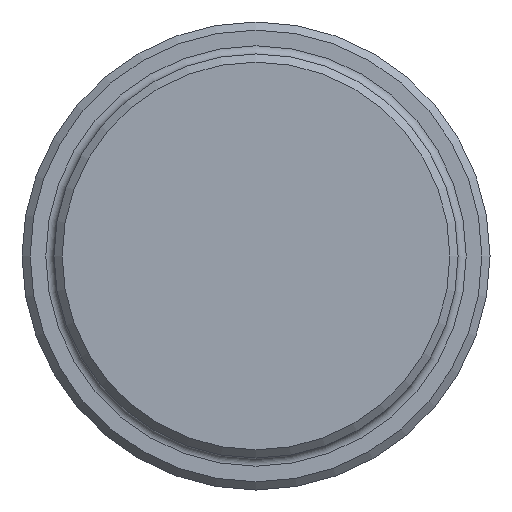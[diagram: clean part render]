
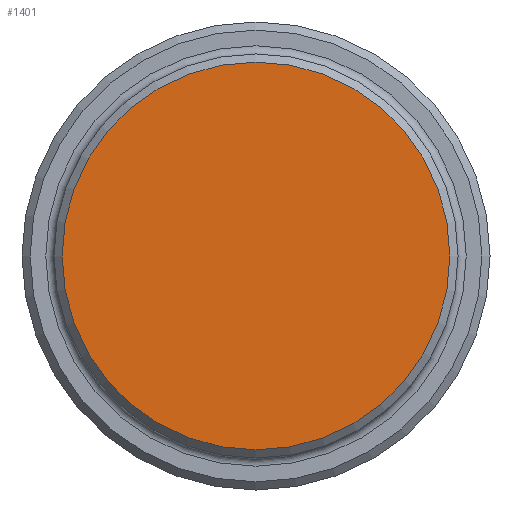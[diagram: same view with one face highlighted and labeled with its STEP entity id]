
A CAD part, left-side view. The second image highlights one B-rep face of the part: STEP entity #1401.
In plain terms, the highlighted planar face has unit normal (-1, 0, 0).
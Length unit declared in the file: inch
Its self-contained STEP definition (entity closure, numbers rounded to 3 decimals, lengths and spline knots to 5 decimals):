
#34 = CARTESIAN_POINT ( 'NONE',  ( 0., 0., 0. ) ) ;
#130 = AXIS2_PLACEMENT_3D ( 'NONE', #34, #466, #1208 ) ;
#274 = VERTEX_POINT ( 'NONE', #1244 ) ;
#332 = EDGE_LOOP ( 'NONE', ( #1124 ) ) ;
#466 = DIRECTION ( 'NONE',  ( 1., 0., 0. ) ) ;
#663 = DIRECTION ( 'NONE',  ( 0., 0., -1. ) ) ;
#732 = AXIS2_PLACEMENT_3D ( 'NONE', #1718, #1234, #663 ) ;
#773 = EDGE_CURVE ( 'NONE', #274, #274, #1070, .T. ) ;
#831 = PLANE ( 'NONE',  #130 ) ;
#1070 = CIRCLE ( 'NONE', #732, 1.425 ) ;
#1124 = ORIENTED_EDGE ( 'NONE', *, *, #773, .T. ) ;
#1148 = FACE_OUTER_BOUND ( 'NONE', #332, .T. ) ;
#1208 = DIRECTION ( 'NONE',  ( 0., 0., -1. ) ) ;
#1234 = DIRECTION ( 'NONE',  ( -1., 0., 0. ) ) ;
#1244 = CARTESIAN_POINT ( 'NONE',  ( 0., 0., -1.425 ) ) ;
#1401 = ADVANCED_FACE ( 'NONE', ( #1148 ), #831, .F. ) ;
#1718 = CARTESIAN_POINT ( 'NONE',  ( 0., 0., 0. ) ) ;
